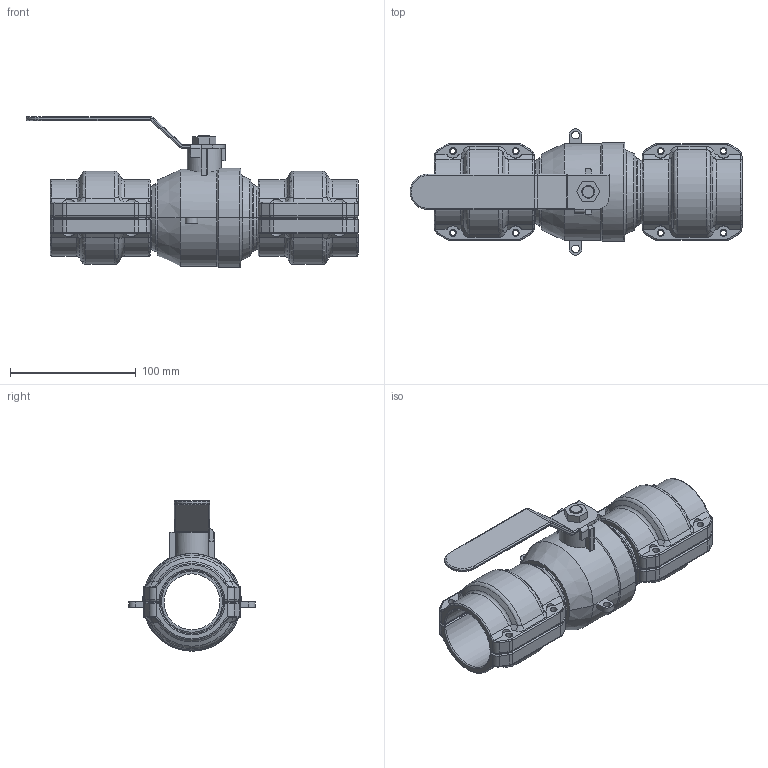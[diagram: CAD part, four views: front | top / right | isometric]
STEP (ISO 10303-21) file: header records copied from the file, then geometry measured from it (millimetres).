
FILE_DESCRIPTION((''),'2;1');
FILE_NAME('2015505199_ASM','2017-05-13T',('li'),(''),'PRO/ENGINEER BY PARAMETRIC TECHNOLOGY CORPORATION, 2009360','PRO/ENGINEER BY PARAMETRIC TECHNOLOGY CORPORATION, 2009360','');
FILE_SCHEMA(('AUTOMOTIVE_DESIGN { 1 0 10303 214 1 1 1 1 }'));
Length unit declared in the file: millimetre
Products named in the file (5): 2015505100; 201550020001; 201550020000; 2015500200_ASM; 2015505199_ASM
Assembly tree (5 placements, depth 3):
  2015505199_ASM
    2015505100
    2015500200_ASM  x2
      201550020001
      201550020000
Bounding box: 264.32 x 100.6 x 119.86 mm (x, y, z)
Volume: 399937.3 mm3; surface area: 156173 mm2
Topology: 5 solids, 5 shells, 597 faces, 1502 edges, 923 vertices
Faces by surface type: cylinder 245, plane 133, torus 118, bspline 48, cone 37, sphere 16
Entity records: 15783 total; most frequent: CARTESIAN_POINT 3263, DIRECTION 2027, ORIENTED_EDGE 1924, PRESENTATION_STYLE_ASSIGNMENT 965, STYLED_ITEM 965, CURVE_STYLE 962, EDGE_CURVE 962, AXIS2_PLACEMENT_3D 811
